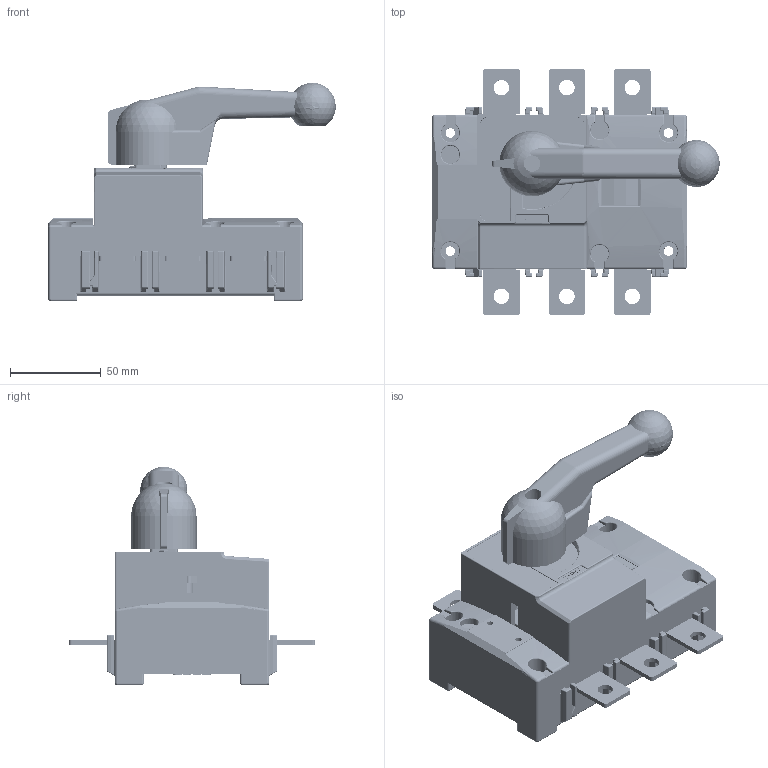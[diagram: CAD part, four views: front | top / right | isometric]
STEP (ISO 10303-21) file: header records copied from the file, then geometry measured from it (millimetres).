
FILE_DESCRIPTION((''),'2;1');
FILE_NAME('NH40_160_3_ASM','2025-03-19T',('zhuanghy'),(''),'CREO PARAMETRIC BY PTC INC, 2018070','CREO PARAMETRIC BY PTC INC, 2018070','');
FILE_SCHEMA(('AUTOMOTIVE_DESIGN { 1 0 10303 214 1 1 1 1 }'));
Products named in the file (19): _______GBT818__8XM4X18; PRODUCT_10975; __________GBT845__8XST4X14_F; _____GBT6170_M4; PRODUCT_86463; ______; __________GBT845__8XST4X22_F; _____GBT93_4; PRODUCT_60553; ____GBT97_1__9_M4_0_8; PRODUCT_64357; PRODUCT_23959; PRODUCT_33104; ________630; PRODUCT_92551; PRODUCT_13231; NH40_160_3_1_ASM; PRT0002; NH40_160_3_ASM
Assembly tree (47 placements, depth 3):
  NH40_160_3_ASM
    NH40_160_3_1_ASM
      _______GBT818__8XM4X18  x3
      PRODUCT_10975
      __________GBT845__8XST4X14_F  x12
      _____GBT6170_M4  x3
      PRODUCT_86463  x3
      ______  x3
      __________GBT845__8XST4X22_F  x2
      _____GBT93_4  x3
      PRODUCT_60553
      ____GBT97_1__9_M4_0_8  x3
      PRODUCT_64357  x6
      PRODUCT_23959
      PRODUCT_33104
      ________630
      PRODUCT_92551
      PRODUCT_13231
    PRT0002
Bounding box: 158.23 x 135.4 x 120.1 mm (x, y, z)
Volume: 638535 mm3; surface area: 157999.3 mm2
Topology: 43 solids, 48 shells, 3849 faces, 9928 edges, 6162 vertices
Faces by surface type: plane 1371, cylinder 1323, bspline 574, cone 223, torus 169, sphere 143, extrusion 46
Entity records: 119553 total; most frequent: CARTESIAN_POINT 56073, ORIENTED_EDGE 11204, DIRECTION 10441, EDGE_CURVE 5606, AXIS2_PLACEMENT_3D 3723, VERTEX_POINT 3515, PRESENTATION_STYLE_ASSIGNMENT 3359, STYLED_ITEM 3354
